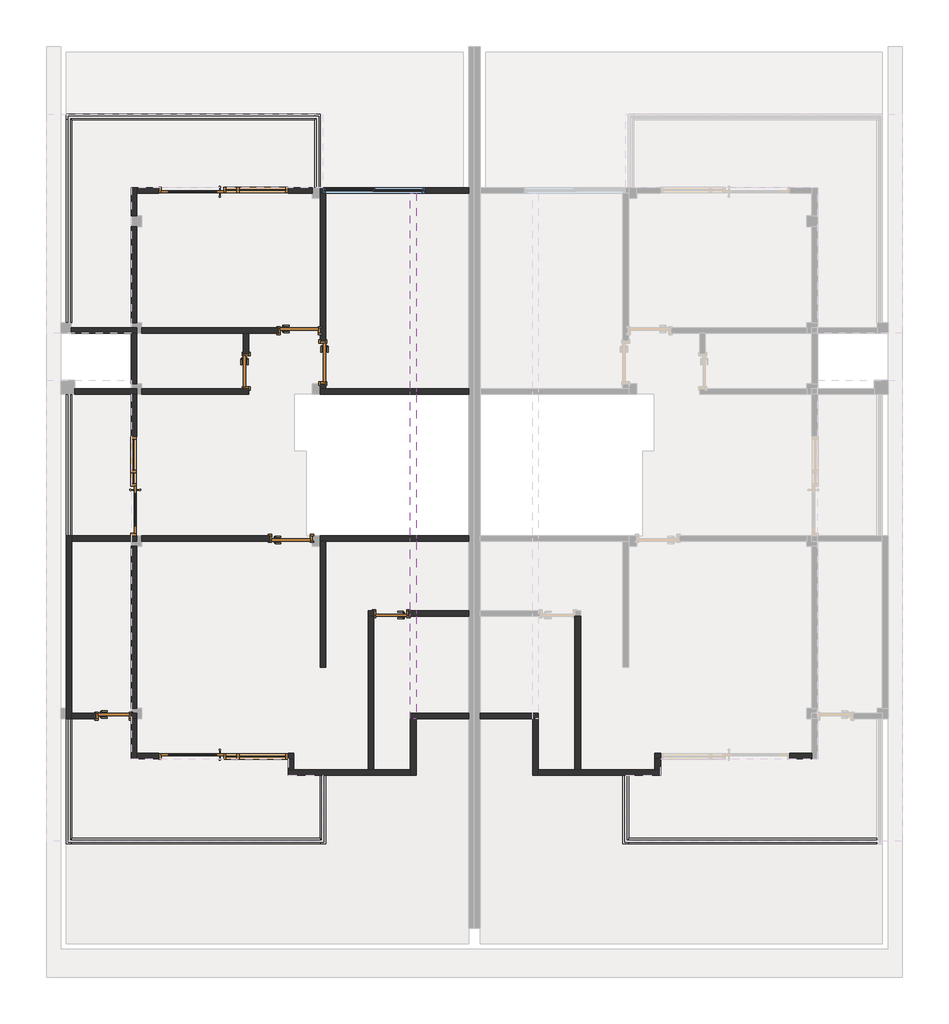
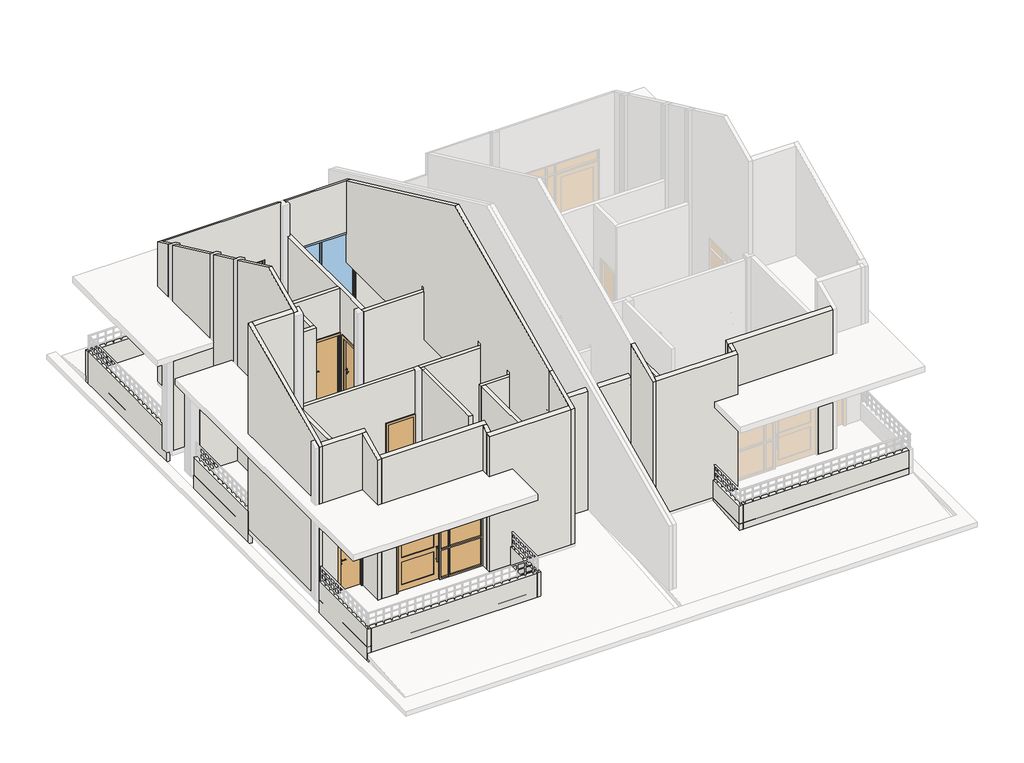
# One storey, part 1 of 6: 44 walls, 9 doors, 1 window.
"""IFC4 building model written with IfcOpenShell, lengths in millimetres."""

from ifc_helpers import new_model, si_unit, frame, origin, place, context, project, spatial, polyline, outline, extrude, faceted_brep, transform, mapped, element, save
from components import m1_178dd28f, m1_b2f3dea5, m3_20c00246, m3_ef5b271f, mlc4_2eb1c427, mlc4_21794f08, mlc5_f6d9b1df, c3_ac34c541

model = new_model("IFC4")

# Units and contexts
model_context = context("Model", 3, world=origin())
ifc_project = project(units=[si_unit("LENGTHUNIT", "METRE", prefix="MILLI")], contexts=[model_context])

# Site, building, storey
site = spatial("IfcSite", under=ifc_project)
building = spatial("IfcBuilding", under=site)
storey = spatial("IfcBuildingStorey", under=building, Name="标高 2", Elevation=3900.0)

# Doors
placement = place(None, origin())
m1_shape = m1_178dd28f(model_context)
element("IfcDoor", 1, ObjectType="单嵌板木门 1 : M1", at=placement, inside=storey, context=model_context, shape_type="MappedRepresentation", body=[
    mapped(m1_shape, transform((-2784.0293904, 5828.7732284, 3900.0), x_axis=(1.0, 0.0, 0.0), y_axis=(0.0, 1.0, 0.0), z_axis=(0.0, 0.0, 1.0))),
])
m1_2_shape = m1_b2f3dea5(model_context)
element("IfcDoor", 2, ObjectType="单嵌板木门 1 : M1", at=placement, inside=storey, context=model_context, shape_type="MappedRepresentation", body=[
    mapped(m1_2_shape, transform((-2609.0293904, 10248.7732284, 3900.0), x_axis=(1.0, 0.0, 0.0), y_axis=(0.0, 1.0, 0.0), z_axis=(0.0, 0.0, 1.0))),
])
element("IfcDoor", 3, ObjectType="单嵌板木门 1 : M1", at=placement, inside=storey, context=model_context, shape_type="MappedRepresentation", body=[
    mapped(m1_2_shape, transform((-2104.0293904, 9568.7732284, 3900.0), x_axis=(0.0, -1.0, 0.0), y_axis=(1.0, 0.0, 0.0), z_axis=(0.0, 0.0, 1.0))),
])
m3_shape = m3_20c00246(model_context)
element("IfcDoor", 4, ObjectType="单嵌板木门 1 : M3", at=placement, inside=storey, context=model_context, shape_type="MappedRepresentation", body=[
    mapped(m3_shape, transform((-654.0293904, 4228.7732284, 3900.0), x_axis=(-1.0, 0.0, 0.0), y_axis=(0.0, -1.0, 0.0), z_axis=(0.0, 0.0, 1.0))),
])
element("IfcDoor", 5, ObjectType="单嵌板木门 1 : M3", at=placement, inside=storey, context=model_context, shape_type="MappedRepresentation", body=[
    mapped(m3_shape, transform((-6559.0293904, 2048.7732284, 3900.0), x_axis=(1.0, 0.0, 0.0), y_axis=(0.0, 1.0, 0.0), z_axis=(0.0, 0.0, 1.0))),
])
m3_2_shape = m3_ef5b271f(model_context)
element("IfcDoor", 6, ObjectType="单嵌板木门 1 : M3", at=placement, inside=storey, context=model_context, shape_type="MappedRepresentation", body=[
    mapped(m3_2_shape, transform((-3739.0293904, 9383.7732284, 3900.0), x_axis=(0.0, -1.0, 0.0), y_axis=(1.0, 0.0, 0.0), z_axis=(0.0, 0.0, 1.0))),
])
mlc4_shape = mlc4_2eb1c427(model_context)
element("IfcDoor", 7, ObjectType="单嵌板连窗玻璃门 1 : MLC4", at=placement, inside=storey, context=model_context, shape_type="MappedRepresentation", body=[
    mapped(mlc4_shape, transform((-4219.0293904, 13228.7732284, 3900.0), x_axis=(1.0, 0.0, 0.0), y_axis=(0.0, 1.0, 0.0), z_axis=(0.0, 0.0, 1.0))),
])
mlc4_2_shape = mlc4_21794f08(model_context)
element("IfcDoor", 8, ObjectType="单嵌板连窗玻璃门 1 : MLC4", at=placement, inside=storey, context=model_context, shape_type="MappedRepresentation", body=[
    mapped(mlc4_2_shape, transform((-4219.0293904, 1198.7732284, 3900.0), x_axis=(1.0, 0.0, 0.0), y_axis=(0.0, 1.0, 0.0), z_axis=(0.0, 0.0, 1.0))),
])
mlc5_shape = mlc5_f6d9b1df(model_context)
element("IfcDoor", 9, ObjectType="单嵌板连窗玻璃门 1 : MLC5", at=placement, inside=storey, context=model_context, shape_type="MappedRepresentation", body=[
    mapped(mlc5_shape, transform((-6124.0293904, 6938.7732284, 3900.0), x_axis=(0.0, 1.0, 0.0), y_axis=(-1.0, 0.0, 0.0), z_axis=(0.0, 0.0, 1.0))),
])

# Walls
element("IfcWall", 10, ObjectType="墙", at=placement, inside=storey, context=model_context, shape_type="Brep", body=[
    faceted_brep([(-6064.0293904, 10308.7732284, 3900.0), (-7454.0293904, 10308.7732284, 3900.0), (-7454.0293904, 10308.7732284, 6900.0), (-6184.0293904, 10308.7732284, 6900.0), (-6064.0293904, 10308.7732284, 6900.0), (-6064.0293904, 10188.7732284, 3900.0), (-6064.0293904, 10188.7732284, 6900.0), (-6184.0293904, 10188.7732284, 6900.0), (-7454.0293904, 10188.7732284, 6900.0), (-7454.0293904, 10188.7732284, 3900.0), (-6184.0293904, 10188.7732284, 3900.0)], [[[0, 1, 2, 3, 4]], [[5, 6, 7, 8, 9, 10]], [[1, 0, 5, 10, 9]], [[2, 1, 9, 8]], [[0, 4, 6, 5]], [[4, 3, 7, 6]], [[3, 2, 8, 7]]]),
])
element("IfcWall", 11, ObjectType="墙", at=placement, inside=storey, context=model_context, shape_type="SweptSolid", body=[
    extrude(outline(polyline([(10418.7732284, 3900.0), (10418.7732284, 9927.4884723), (12458.7732284, 8976.2208496), (12458.7732284, 3900.0), (10418.7732284, 3900.0)])), frame((-6184.0293904, 0.0, 0.0), z_axis=(1.0, 0.0, 0.0), x_axis=(0.0, 1.0, 0.0)), (0.0, 0.0, 1.0), 120.0),
])
element("IfcWall", 12, ObjectType="墙", at=placement, inside=storey, context=model_context, shape_type="Brep", body=[
    faceted_brep([(-6064.0293904, 12688.7732284, 3900.0), (-6064.0293904, 13168.7732284, 3900.0), (-6064.0293904, 13288.7732284, 3900.0), (-6064.0293904, 13288.7732284, 8589.1854934), (-6064.0293904, 13168.7732284, 8645.1424123), (-6064.0293904, 12688.7732284, 8868.9700883), (-6184.0293904, 12688.7732284, 3900.0), (-6184.0293904, 12688.7732284, 8868.9700883), (-6184.0293904, 13288.7732284, 8589.1854934), (-6184.0293904, 13288.7732284, 3900.0)], [[[0, 1, 2, 3, 4, 5]], [[6, 7, 8, 9]], [[2, 1, 0, 6, 9]], [[0, 5, 7, 6]], [[3, 2, 9, 8]], [[5, 4, 3, 8, 7]]]),
])
element("IfcWall", 13, ObjectType="墙", at=placement, inside=storey, context=model_context, shape_type="Brep", body=[
    faceted_brep([(-2334.0293904, 13168.7732284, 3900.0), (-2334.0293904, 13168.7732284, 8645.1424123), (-6064.0293904, 13168.7732284, 8645.1424123), (-6064.0293904, 13168.7732284, 3900.0), (-5594.0293904, 13168.7732284, 3900.0), (-5594.0293904, 13168.7732284, 6900.0), (-2844.0293904, 13168.7732284, 6900.0), (-2844.0293904, 13168.7732284, 3900.0), (-2334.0293904, 13288.7732284, 8589.1854934), (-2334.0293904, 13288.7732284, 3900.0), (-2844.0293904, 13288.7732284, 3900.0), (-2844.0293904, 13288.7732284, 6900.0), (-5594.0293904, 13288.7732284, 6900.0), (-5594.0293904, 13288.7732284, 3900.0), (-6064.0293904, 13288.7732284, 3900.0), (-6064.0293904, 13288.7732284, 8589.1854934)], [[[0, 1, 2, 3, 4, 5, 6, 7]], [[8, 9, 10, 11, 12, 13, 14, 15]], [[9, 0, 7, 10]], [[3, 14, 13, 4]], [[1, 0, 9, 8]], [[3, 2, 15, 14]], [[6, 11, 10, 7]], [[11, 6, 5, 12]], [[12, 5, 4, 13]], [[2, 1, 8, 15]]]),
])
element("IfcWall", 14, ObjectType="墙", at=placement, inside=storey, context=model_context, shape_type="Brep", body=[
    faceted_brep([(-2164.0293904, 13168.7732284, 3900.0), (-2104.0293904, 13168.7732284, 3900.0), (-2104.0293904, 13168.7732284, 6900.0), (55.9706096, 13168.7732284, 6900.0), (55.9706096, 13168.7732284, 3900.0), (995.9706096, 13168.7732284, 3900.0), (995.9706096, 13168.7732284, 7928.9916288), (-124.0293904, 13168.7732284, 7928.9916288), (-124.0293904, 13168.7732284, 8645.1424123), (-244.0293904, 13168.7732284, 8645.1424123), (-2164.0293904, 13168.7732284, 8645.1424123), (-2164.0293904, 13168.7732284, 7500.0), (-2104.0293904, 13288.7732284, 6900.0), (-2104.0293904, 13288.7732284, 3900.0), (-2164.0293904, 13288.7732284, 3900.0), (-2164.0293904, 13288.7732284, 8589.1854934), (-124.0293904, 13288.7732284, 8589.1854934), (-124.0293904, 13288.7732284, 7873.0347098), (995.9706096, 13288.7732284, 7873.0347098), (995.9706096, 13288.7732284, 3900.0), (55.9706096, 13288.7732284, 3900.0), (55.9706096, 13288.7732284, 6900.0)], [[[0, 1, 2, 3, 4, 5, 6, 7, 8, 9, 10, 11]], [[12, 13, 14, 15, 16, 17, 18, 19, 20, 21]], [[20, 19, 5, 4]], [[14, 13, 1, 0]], [[0, 11, 10, 15, 14]], [[4, 3, 21, 20]], [[2, 1, 13, 12]], [[3, 2, 12, 21]], [[10, 9, 8, 16, 15]], [[16, 8, 7, 17]], [[7, 6, 18, 17]], [[6, 5, 19, 18]]]),
])
element("IfcWall", 15, ObjectType="墙", at=placement, inside=storey, context=model_context, shape_type="Brep", body=[
    faceted_brep([(-6064.0293904, 9008.7732284, 3900.0), (-7384.0293904, 9008.7732284, 3900.0), (-7384.0293904, 9008.7732284, 6900.0), (-6184.0293904, 9008.7732284, 6900.0), (-6064.0293904, 9008.7732284, 6900.0), (-6064.0293904, 8888.7732284, 3900.0), (-6064.0293904, 8888.7732284, 6900.0), (-6184.0293904, 8888.7732284, 6900.0), (-7384.0293904, 8888.7732284, 6900.0), (-7384.0293904, 8888.7732284, 3900.0), (-6184.0293904, 8888.7732284, 3900.0)], [[[0, 1, 2, 3, 4]], [[5, 6, 7, 8, 9, 10]], [[1, 0, 5, 10, 9]], [[2, 1, 9, 8]], [[0, 4, 6, 5]], [[4, 3, 7, 6]], [[3, 2, 8, 7]]]),
])
element("IfcWall", 16, ObjectType="墙", at=placement, inside=storey, context=model_context, shape_type="Brep", body=[
    faceted_brep([(-6064.0293904, 8888.7732284, 3900.0), (-6064.0293904, 8888.7732284, 6900.0), (-6064.0293904, 8888.7732284, 10640.9391892), (-6064.0293904, 7188.7732284, 11433.6622081), (-6064.0293904, 5768.7732284, 10771.5053335), (-6064.0293904, 5768.7732284, 3900.0), (-6064.0293904, 5888.7732284, 3900.0), (-6064.0293904, 5888.7732284, 6900.0), (-6064.0293904, 7988.7732284, 6900.0), (-6064.0293904, 7988.7732284, 3900.0), (-6184.0293904, 8888.7732284, 10640.9391892), (-6184.0293904, 8888.7732284, 3900.0), (-6184.0293904, 7988.7732284, 3900.0), (-6184.0293904, 7988.7732284, 6900.0), (-6184.0293904, 5888.7732284, 6900.0), (-6184.0293904, 5888.7732284, 3900.0), (-6184.0293904, 5768.7732284, 3900.0), (-6184.0293904, 5768.7732284, 10771.5053335), (-6184.0293904, 5888.7732284, 10827.4622525), (-6184.0293904, 7188.7732284, 11433.6622081)], [[[0, 1, 2, 3, 4, 5, 6, 7, 8, 9]], [[10, 11, 12, 13, 14, 15, 16, 17, 18, 19]], [[11, 0, 9, 12]], [[5, 16, 15, 6]], [[2, 1, 0, 11, 10]], [[5, 4, 17, 16]], [[8, 13, 12, 9]], [[13, 8, 7, 14]], [[14, 7, 6, 15]], [[17, 4, 3, 19, 18]], [[2, 10, 19, 3]]]),
])
element("IfcWall", 17, ObjectType="墙", at=placement, inside=storey, context=model_context, shape_type="Brep", body=[
    faceted_brep([(-7444.0293904, 1988.7732284, 9008.8623857), (-7444.0293904, 1988.7732284, 4500.0), (-7444.0293904, 1988.7732284, 3900.0), (-7444.0293904, 2108.7732284, 3900.0), (-7444.0293904, 5768.7732284, 3900.0), (-7444.0293904, 5888.7732284, 3900.0), (-7444.0293904, 5888.7732284, 4500.0), (-7444.0293904, 5888.7732284, 10827.4622525), (-7444.0293904, 5768.7732284, 10771.5053335), (-7444.0293904, 2108.7732284, 9064.8193047), (-7564.0293904, 1988.7732284, 3900.0), (-7564.0293904, 1988.7732284, 4500.0), (-7564.0293904, 1988.7732284, 9008.8623857), (-7564.0293904, 5888.7732284, 10827.4622525), (-7564.0293904, 5888.7732284, 4500.0), (-7564.0293904, 5888.7732284, 3900.0)], [[[0, 1, 2, 3, 4, 5, 6, 7, 8, 9]], [[10, 11, 12, 13, 14, 15]], [[5, 4, 3, 2, 10, 15]], [[0, 12, 11, 10, 2, 1]], [[5, 15, 14, 13, 7, 6]], [[0, 9, 8, 7, 13, 12]]]),
])
element("IfcWall", 18, ObjectType="墙", at=placement, inside=storey, context=model_context, shape_type="Brep", body=[
    faceted_brep([(-7444.0293904, 5768.7732284, 3900.0), (-6184.0293904, 5768.7732284, 3900.0), (-6184.0293904, 5768.7732284, 10771.5053335), (-7444.0293904, 5768.7732284, 10771.5053335), (-7444.0293904, 5888.7732284, 3900.0), (-7444.0293904, 5888.7732284, 10827.4622525), (-6184.0293904, 5888.7732284, 10827.4622525), (-6184.0293904, 5888.7732284, 6900.0), (-6184.0293904, 5888.7732284, 3900.0)], [[[0, 1, 2, 3]], [[4, 5, 6, 7, 8]], [[1, 0, 4, 8]], [[0, 3, 5, 4]], [[2, 1, 8, 7, 6]], [[3, 2, 6, 5]]]),
])
element("IfcWall", 19, ObjectType="墙", at=placement, inside=storey, context=model_context, shape_type="Brep", body=[
    faceted_brep([(-6064.0293904, 2108.7732284, 9064.8193047), (-6064.0293904, 2108.7732284, 3900.0), (-6184.0293904, 2108.7732284, 3900.0), (-6184.0293904, 2108.7732284, 5900.0), (-6934.0293904, 2108.7732284, 5900.0), (-6934.0293904, 2108.7732284, 3900.0), (-7444.0293904, 2108.7732284, 3900.0), (-7444.0293904, 2108.7732284, 9064.8193047), (-6064.0293904, 1988.7732284, 3900.0), (-6064.0293904, 1988.7732284, 9008.8623857), (-6184.0293904, 1988.7732284, 9008.8623857), (-7444.0293904, 1988.7732284, 9008.8623857), (-7444.0293904, 1988.7732284, 3900.0), (-6934.0293904, 1988.7732284, 3900.0), (-6934.0293904, 1988.7732284, 5900.0), (-6184.0293904, 1988.7732284, 5900.0), (-6184.0293904, 1988.7732284, 3900.0)], [[[0, 1, 2, 3, 4, 5, 6, 7]], [[8, 9, 10, 11, 12, 13, 14, 15, 16]], [[1, 8, 16, 2]], [[12, 6, 5, 13]], [[1, 0, 9, 8]], [[6, 12, 11, 7]], [[15, 3, 2, 16]], [[3, 15, 14, 4]], [[4, 14, 13, 5]], [[0, 7, 11, 10, 9]]]),
])
element("IfcWall", 20, ObjectType="墙", at=placement, inside=storey, context=model_context, shape_type="Brep", body=[
    faceted_brep([(-6064.0293904, 1138.7732284, 3900.0), (-6064.0293904, 1258.7732284, 3900.0), (-6064.0293904, 1988.7732284, 3900.0), (-6064.0293904, 1988.7732284, 9008.8623857), (-6064.0293904, 1258.7732284, 8668.4577952), (-6064.0293904, 1138.7732284, 8612.5008763), (-6184.0293904, 1138.7732284, 3900.0), (-6184.0293904, 1138.7732284, 8612.5008763), (-6184.0293904, 1988.7732284, 9008.8623857), (-6184.0293904, 1988.7732284, 6000.0), (-6184.0293904, 1988.7732284, 3900.0)], [[[0, 1, 2, 3, 4, 5]], [[6, 7, 8, 9, 10]], [[2, 1, 0, 6, 10]], [[3, 2, 10, 9, 8]], [[0, 5, 7, 6]], [[5, 4, 3, 8, 7]]]),
])
element("IfcWall", 21, ObjectType="墙", at=placement, inside=storey, context=model_context, shape_type="Brep", body=[
    faceted_brep([(-6064.0293904, 1258.7732284, 3900.0), (-6064.0293904, 1258.7732284, 8668.4577952), (-2724.0293904, 1258.7732284, 8668.4577952), (-2724.0293904, 1258.7732284, 3900.0), (-2844.0293904, 1258.7732284, 3900.0), (-2844.0293904, 1258.7732284, 6900.0), (-5594.0293904, 1258.7732284, 6900.0), (-5594.0293904, 1258.7732284, 3900.0), (-6064.0293904, 1138.7732284, 8612.5008763), (-6064.0293904, 1138.7732284, 3900.0), (-5594.0293904, 1138.7732284, 3900.0), (-5594.0293904, 1138.7732284, 6900.0), (-2844.0293904, 1138.7732284, 6900.0), (-2844.0293904, 1138.7732284, 3900.0), (-2724.0293904, 1138.7732284, 3900.0), (-2724.0293904, 1138.7732284, 8612.5008763), (-2844.0293904, 1138.7732284, 8612.5008763)], [[[0, 1, 2, 3, 4, 5, 6, 7]], [[8, 9, 10, 11, 12, 13, 14, 15, 16]], [[9, 0, 7, 10]], [[3, 14, 13, 4]], [[1, 0, 9, 8]], [[3, 2, 15, 14]], [[12, 5, 4, 13]], [[5, 12, 11, 6]], [[6, 11, 10, 7]], [[2, 1, 8, 16, 15]]]),
])
element("IfcWall", 22, ObjectType="墙", at=placement, inside=storey, context=model_context, shape_type="Brep", body=[
    faceted_brep([(995.9706096, 2108.7732284, 3900.0), (-244.0293904, 2108.7732284, 3900.0), (-244.0293904, 2108.7732284, 7650.0), (-124.0293904, 2108.7732284, 7650.0), (-124.0293904, 2108.7732284, 7956.9700883), (995.9706096, 2108.7732284, 7956.9700883), (995.9706096, 1988.7732284, 3900.0), (995.9706096, 1988.7732284, 7901.0131693), (-124.0293904, 1988.7732284, 7901.0131693), (-124.0293904, 1988.7732284, 7650.0), (-244.0293904, 1988.7732284, 7650.0), (-244.0293904, 1988.7732284, 3900.0), (-124.0293904, 1988.7732284, 3900.0)], [[[0, 1, 2, 3, 4, 5]], [[6, 7, 8, 9, 10, 11, 12]], [[1, 0, 6, 12, 11]], [[2, 1, 11, 10]], [[3, 2, 10, 9]], [[3, 9, 8, 4]], [[5, 4, 8, 7]], [[0, 5, 7, 6]]]),
])
element("IfcWall", 23, ObjectType="墙", at=placement, inside=storey, context=model_context, shape_type="Brep", body=[
    faceted_brep([(-244.0293904, 1988.7732284, 3900.0), (-244.0293904, 908.7732284, 3900.0), (-244.0293904, 788.7732284, 3900.0), (-244.0293904, 788.7732284, 8449.2931959), (-244.0293904, 908.7732284, 8505.2501149), (-244.0293904, 1988.7732284, 9008.8623857), (-244.0293904, 1988.7732284, 7650.0), (-124.0293904, 1988.7732284, 3900.0), (-124.0293904, 1988.7732284, 9008.8623857), (-124.0293904, 788.7732284, 8449.2931959), (-124.0293904, 788.7732284, 3900.0)], [[[0, 1, 2, 3, 4, 5, 6]], [[7, 8, 9, 10]], [[2, 1, 0, 7, 10]], [[0, 6, 5, 8, 7]], [[3, 2, 10, 9]], [[5, 4, 3, 9, 8]]]),
])
element("IfcWall", 24, ObjectType="墙", at=placement, inside=storey, context=model_context, shape_type="Brep", body=[
    faceted_brep([(-244.0293904, 908.7732284, 3900.0), (-1024.0293904, 908.7732284, 3900.0), (-1144.0293904, 908.7732284, 3900.0), (-2724.0293904, 908.7732284, 3900.0), (-2844.0293904, 908.7732284, 3900.0), (-2844.0293904, 908.7732284, 8505.2501149), (-2724.0293904, 908.7732284, 8505.2501149), (-244.0293904, 908.7732284, 8505.2501149), (-244.0293904, 788.7732284, 3900.0), (-244.0293904, 788.7732284, 8449.2931959), (-2844.0293904, 788.7732284, 8449.2931959), (-2844.0293904, 788.7732284, 3900.0)], [[[0, 1, 2, 3, 4, 5, 6, 7]], [[8, 9, 10, 11]], [[4, 3, 2, 1, 0, 8, 11]], [[0, 7, 9, 8]], [[5, 4, 11, 10]], [[7, 6, 5, 10, 9]]]),
])
element("IfcWall", 25, ObjectType="墙", at=placement, inside=storey, context=model_context, shape_type="Brep", body=[
    faceted_brep([(-2724.0293904, 908.7732284, 3900.0), (-2724.0293904, 1138.7732284, 3900.0), (-2724.0293904, 1138.7732284, 8612.5008763), (-2724.0293904, 908.7732284, 8505.2501149), (-2844.0293904, 908.7732284, 3900.0), (-2844.0293904, 908.7732284, 8505.2501149), (-2844.0293904, 1138.7732284, 8612.5008763), (-2844.0293904, 1138.7732284, 6900.0), (-2844.0293904, 1138.7732284, 3900.0)], [[[0, 1, 2, 3]], [[4, 5, 6, 7, 8]], [[1, 0, 4, 8]], [[0, 3, 5, 4]], [[2, 1, 8, 7, 6]], [[3, 2, 6, 5]]]),
])
element("IfcWall", 26, ObjectType="墙", at=placement, inside=storey, context=model_context, shape_type="Brep", body=[
    faceted_brep([(-1029.0293904, 4288.7732284, 3900.0), (-1144.0293904, 4288.7732284, 3900.0), (-1144.0293904, 4288.7732284, 7500.0), (995.9706096, 4288.7732284, 7500.0), (995.9706096, 4288.7732284, 3900.0), (-279.0293904, 4288.7732284, 3900.0), (-279.0293904, 4288.7732284, 5900.0), (-1029.0293904, 4288.7732284, 5900.0), (-1144.0293904, 4168.7732284, 3900.0), (-1029.0293904, 4168.7732284, 3900.0), (-1029.0293904, 4168.7732284, 5900.0), (-279.0293904, 4168.7732284, 5900.0), (-279.0293904, 4168.7732284, 3900.0), (995.9706096, 4168.7732284, 3900.0), (995.9706096, 4168.7732284, 7500.0), (-1024.0293904, 4168.7732284, 7500.0), (-1144.0293904, 4168.7732284, 7500.0)], [[[0, 1, 2, 3, 4, 5, 6, 7]], [[8, 9, 10, 11, 12, 13, 14, 15, 16]], [[8, 1, 0, 9]], [[5, 4, 13, 12]], [[1, 8, 16, 2]], [[7, 10, 9, 0]], [[10, 7, 6, 11]], [[11, 6, 5, 12]], [[3, 2, 16, 15, 14]], [[13, 4, 3, 14]]]),
])
element("IfcWall", 27, ObjectType="墙", at=placement, inside=storey, context=model_context, shape_type="SweptSolid", body=[
    extrude(outline(polyline([(-1144.0293904, 908.7732284), (-1144.0293904, 4168.7732284), (-1024.0293904, 4168.7732284), (-1024.0293904, 908.7732284), (-1144.0293904, 908.7732284)])), frame((0.0, 0.0, 3900.0), z_axis=(0.0, 0.0, 1.0), x_axis=(1.0, 0.0, 0.0)), (0.0, 0.0, 1.0), 3600.0),
])
element("IfcWall", 28, ObjectType="墙", at=placement, inside=storey, context=model_context, shape_type="SweptSolid", body=[
    extrude(outline(polyline([(-6064.0293904, 5658.7732284), (-6064.0293904, 2218.7732284), (-6184.0293904, 2218.7732284), (-6184.0293904, 5658.7732284), (-6064.0293904, 5658.7732284)])), frame((0.0, 0.0, 3900.0), z_axis=(0.0, 0.0, 1.0), x_axis=(1.0, 0.0, 0.0)), (0.0, 0.0, 1.0), 3750.0),
])
element("IfcWall", 29, ObjectType="墙", at=placement, inside=storey, context=model_context, shape_type="SweptSolid", body=[
    extrude(outline(polyline([(3900.0, -5954.0293904), (3900.0, -3234.0293904), (6000.0, -3234.0293904), (6000.0, -2334.0293904), (7500.0, -2334.0293904), (7500.0, -5954.0293904), (3900.0, -5954.0293904)])), frame((0.0, 5768.7732284, 0.0), z_axis=(0.0, 1.0, 0.0), x_axis=(0.0, 0.0, 1.0)), (0.0, 0.0, 1.0), 120.0),
])
element("IfcWall", 30, ObjectType="墙", at=placement, inside=storey, context=model_context, shape_type="Brep", body=[
    faceted_brep([(-2164.0293904, 5768.7732284, 3900.0), (-2044.0293904, 5768.7732284, 3900.0), (995.9706096, 5768.7732284, 3900.0), (995.9706096, 5768.7732284, 7500.0), (-2044.0293904, 5768.7732284, 7500.0), (-2164.0293904, 5768.7732284, 7500.0), (995.9706096, 5888.7732284, 3900.0), (-2164.0293904, 5888.7732284, 3900.0), (-2164.0293904, 5888.7732284, 7500.0), (995.9706096, 5888.7732284, 7500.0)], [[[0, 1, 2, 3, 4, 5]], [[6, 7, 8, 9]], [[2, 1, 0, 7, 6]], [[7, 0, 5, 8]], [[5, 4, 3, 9, 8]], [[2, 6, 9, 3]]]),
])
element("IfcWall", 31, ObjectType="墙", at=placement, inside=storey, context=model_context, shape_type="Brep", body=[
    faceted_brep([(995.9706096, 9008.7732284, 3900.0), (-2044.0293904, 9008.7732284, 3900.0), (-2164.0293904, 9008.7732284, 3900.0), (-2164.0293904, 9008.7732284, 7500.0), (-2044.0293904, 9008.7732284, 7500.0), (995.9706096, 9008.7732284, 7500.0), (-2164.0293904, 8888.7732284, 3900.0), (995.9706096, 8888.7732284, 3900.0), (995.9706096, 8888.7732284, 7500.0), (-2164.0293904, 8888.7732284, 7500.0)], [[[0, 1, 2, 3, 4, 5]], [[6, 7, 8, 9]], [[2, 1, 0, 7, 6]], [[2, 6, 9, 3]], [[5, 4, 3, 9, 8]], [[7, 0, 5, 8]]]),
])
element("IfcWall", 32, ObjectType="墙", at=placement, inside=storey, context=model_context, shape_type="Brep", body=[
    faceted_brep([(-3679.0293904, 9008.7732284, 3900.0), (-5954.0293904, 9008.7732284, 3900.0), (-5954.0293904, 9008.7732284, 7500.0), (-3799.0293904, 9008.7732284, 7500.0), (-3679.0293904, 9008.7732284, 7500.0), (-3679.0293904, 9008.7732284, 5900.0), (-5954.0293904, 8888.7732284, 3900.0), (-3679.0293904, 8888.7732284, 3900.0), (-3679.0293904, 8888.7732284, 7500.0), (-5954.0293904, 8888.7732284, 7500.0)], [[[0, 1, 2, 3, 4, 5]], [[6, 7, 8, 9]], [[1, 0, 7, 6]], [[1, 6, 9, 2]], [[7, 0, 5, 4, 8]], [[4, 3, 2, 9, 8]]]),
])
element("IfcWall", 33, ObjectType="墙", at=placement, inside=storey, context=model_context, shape_type="SweptSolid", body=[
    extrude(outline(polyline([(-2164.0293904, 3088.7732284), (-2164.0293904, 5768.7732284), (-2044.0293904, 5768.7732284), (-2044.0293904, 3088.7732284), (-2164.0293904, 3088.7732284)])), frame((0.0, 0.0, 3900.0), z_axis=(0.0, 0.0, 1.0), x_axis=(1.0, 0.0, 0.0)), (0.0, 0.0, 1.0), 3600.0),
])
element("IfcWall", 34, ObjectType="墙", at=placement, inside=storey, context=model_context, shape_type="Brep", body=[
    faceted_brep([(-2044.0293904, 9008.7732284, 3900.0), (-2044.0293904, 9118.7732284, 3900.0), (-2044.0293904, 9118.7732284, 6000.0), (-2044.0293904, 10018.7732284, 6000.0), (-2044.0293904, 10018.7732284, 3900.0), (-2044.0293904, 13168.7732284, 3900.0), (-2044.0293904, 13168.7732284, 7500.0), (-2044.0293904, 9008.7732284, 7500.0), (-2164.0293904, 13168.7732284, 3900.0), (-2164.0293904, 10308.7732284, 3900.0), (-2164.0293904, 10308.7732284, 6000.0), (-2164.0293904, 10188.7732284, 6000.0), (-2164.0293904, 10188.7732284, 3900.0), (-2164.0293904, 10018.7732284, 3900.0), (-2164.0293904, 10018.7732284, 6000.0), (-2164.0293904, 9118.7732284, 6000.0), (-2164.0293904, 9118.7732284, 3900.0), (-2164.0293904, 9008.7732284, 3900.0), (-2164.0293904, 9008.7732284, 7500.0), (-2164.0293904, 10188.7732284, 7500.0), (-2164.0293904, 10308.7732284, 7500.0), (-2164.0293904, 13168.7732284, 7500.0), (-2159.0293904, 10188.7732284, 3900.0), (-2159.0293904, 10308.7732284, 3900.0), (-2159.0293904, 10188.7732284, 6000.0), (-2159.0293904, 10308.7732284, 6000.0)], [[[0, 1, 2, 3, 4, 5, 6, 7]], [[8, 9, 10, 11, 12, 13, 14, 15, 16, 17, 18, 19, 20, 21]], [[8, 5, 4, 13, 12, 22, 23, 9]], [[0, 17, 16, 1]], [[17, 0, 7, 18]], [[5, 8, 21, 6]], [[24, 22, 12, 11]], [[23, 25, 10, 9]], [[22, 24, 25, 23]], [[25, 24, 11, 10]], [[15, 2, 1, 16]], [[2, 15, 14, 3]], [[3, 14, 13, 4]], [[7, 6, 21, 20, 19, 18]]]),
])
element("IfcWall", 35, ObjectType="墙", at=placement, inside=storey, context=model_context, shape_type="Brep", body=[
    faceted_brep([(-3059.0293904, 10308.7732284, 3900.0), (-5954.0293904, 10308.7732284, 3900.0), (-5954.0293904, 10308.7732284, 7500.0), (-2164.0293904, 10308.7732284, 7500.0), (-2164.0293904, 10308.7732284, 6000.0), (-3059.0293904, 10308.7732284, 6000.0), (-5954.0293904, 10188.7732284, 3900.0), (-3799.0293904, 10188.7732284, 3900.0), (-3679.0293904, 10188.7732284, 3900.0), (-3059.0293904, 10188.7732284, 3900.0), (-3059.0293904, 10188.7732284, 6000.0), (-2164.0293904, 10188.7732284, 6000.0), (-2164.0293904, 10188.7732284, 7500.0), (-3679.0293904, 10188.7732284, 7500.0), (-3799.0293904, 10188.7732284, 7500.0), (-5954.0293904, 10188.7732284, 7500.0)], [[[0, 1, 2, 3, 4, 5]], [[6, 7, 8, 9, 10, 11, 12, 13, 14, 15]], [[6, 1, 0, 9, 8, 7]], [[1, 6, 15, 2]], [[11, 4, 3, 12]], [[10, 5, 4, 11]], [[5, 10, 9, 0]], [[3, 2, 15, 14, 13, 12]]]),
])
element("IfcWall", 36, ObjectType="墙", at=placement, inside=storey, context=model_context, shape_type="SweptSolid", body=[
    extrude(outline(polyline([(10188.7732284, 3900.0), (9758.7732284, 3900.0), (9758.7732284, 5900.0), (9008.7732284, 5900.0), (9008.7732284, 7500.0), (10188.7732284, 7500.0), (10188.7732284, 3900.0)])), frame((-3799.0293904, 0.0, 0.0), z_axis=(1.0, 0.0, 0.0), x_axis=(0.0, 1.0, 0.0)), (0.0, 0.0, 1.0), 120.0),
])
element("IfcWall", 37, ObjectType="墙", at=placement, inside=storey, context=model_context, shape_type="Brep", body=[
    faceted_brep([(8295.9706096, 1138.7732284, 3900.0), (8295.9706096, 1138.7732284, 8612.5008763), (5075.9706096, 1138.7732284, 8612.5008763), (4955.9706096, 1138.7732284, 8612.5008763), (4955.9706096, 1138.7732284, 3900.0), (5075.9706096, 1138.7732284, 3900.0), (5075.9706096, 1138.7732284, 6900.0), (7825.9706096, 1138.7732284, 6900.0), (7825.9706096, 1138.7732284, 3900.0), (8295.9706096, 1258.7732284, 8668.4577952), (8295.9706096, 1258.7732284, 3900.0), (7825.9706096, 1258.7732284, 3900.0), (7825.9706096, 1258.7732284, 6900.0), (5075.9706096, 1258.7732284, 6900.0), (5075.9706096, 1258.7732284, 3900.0), (4955.9706096, 1258.7732284, 3900.0), (4955.9706096, 1258.7732284, 8668.4577952)], [[[0, 1, 2, 3, 4, 5, 6, 7, 8]], [[9, 10, 11, 12, 13, 14, 15, 16]], [[10, 0, 8, 11]], [[4, 15, 14, 5]], [[1, 0, 10, 9]], [[4, 3, 16, 15]], [[13, 6, 5, 14]], [[6, 13, 12, 7]], [[7, 12, 11, 8]], [[3, 2, 1, 9, 16]]]),
])
element("IfcWall", 38, ObjectType="墙", at=placement, inside=storey, context=model_context, shape_type="Brep", body=[
    faceted_brep([(1235.9706096, 1988.7732284, 3900.0), (2355.9706096, 1988.7732284, 3900.0), (2475.9706096, 1988.7732284, 3900.0), (2475.9706096, 1988.7732284, 7650.0), (2355.9706096, 1988.7732284, 7650.0), (2355.9706096, 1988.7732284, 7901.0131693), (1235.9706096, 1988.7732284, 7901.0131693), (1235.9706096, 2108.7732284, 3900.0), (1235.9706096, 2108.7732284, 7956.9700883), (2355.9706096, 2108.7732284, 7956.9700883), (2355.9706096, 2108.7732284, 7650.0), (2475.9706096, 2108.7732284, 7650.0), (2475.9706096, 2108.7732284, 3900.0)], [[[0, 1, 2, 3, 4, 5, 6]], [[7, 8, 9, 10, 11, 12]], [[2, 1, 0, 7, 12]], [[3, 2, 12, 11]], [[0, 6, 8, 7]], [[4, 3, 11, 10]], [[4, 10, 9, 5]], [[6, 5, 9, 8]]]),
])
element("IfcWall", 39, ObjectType="墙", at=placement, inside=storey, context=model_context, shape_type="Brep", body=[
    faceted_brep([(2355.9706096, 1988.7732284, 3900.0), (2355.9706096, 788.7732284, 3900.0), (2355.9706096, 788.7732284, 8449.2931959), (2355.9706096, 1988.7732284, 9008.8623857), (2475.9706096, 1988.7732284, 3900.0), (2475.9706096, 1988.7732284, 7650.0), (2475.9706096, 1988.7732284, 9008.8623857), (2475.9706096, 908.7732284, 8505.2501149), (2475.9706096, 788.7732284, 8449.2931959), (2475.9706096, 788.7732284, 3900.0), (2475.9706096, 908.7732284, 3900.0)], [[[0, 1, 2, 3]], [[4, 5, 6, 7, 8, 9, 10]], [[1, 0, 4, 10, 9]], [[0, 3, 6, 5, 4]], [[2, 1, 9, 8]], [[3, 2, 8, 7, 6]]]),
])
element("IfcWall", 40, ObjectType="墙", at=placement, inside=storey, context=model_context, shape_type="Brep", body=[
    faceted_brep([(2475.9706096, 788.7732284, 3900.0), (5075.9706096, 788.7732284, 3900.0), (5075.9706096, 788.7732284, 8449.2931959), (2475.9706096, 788.7732284, 8449.2931959), (2475.9706096, 908.7732284, 3900.0), (2475.9706096, 908.7732284, 8505.2501149), (4955.9706096, 908.7732284, 8505.2501149), (5075.9706096, 908.7732284, 8505.2501149), (5075.9706096, 908.7732284, 3900.0), (4955.9706096, 908.7732284, 3900.0), (3375.9706096, 908.7732284, 3900.0), (3255.9706096, 908.7732284, 3900.0)], [[[0, 1, 2, 3]], [[4, 5, 6, 7, 8, 9, 10, 11]], [[1, 0, 4, 11, 10, 9, 8]], [[0, 3, 5, 4]], [[2, 1, 8, 7]], [[3, 2, 7, 6, 5]]]),
])
element("IfcWall", 41, ObjectType="墙", at=placement, inside=storey, context=model_context, shape_type="Brep", body=[
    faceted_brep([(5075.9706096, 908.7732284, 3900.0), (5075.9706096, 1138.7732284, 3900.0), (5075.9706096, 1138.7732284, 6900.0), (5075.9706096, 1138.7732284, 8612.5008763), (5075.9706096, 908.7732284, 8505.2501149), (4955.9706096, 908.7732284, 3900.0), (4955.9706096, 908.7732284, 8505.2501149), (4955.9706096, 1138.7732284, 8612.5008763), (4955.9706096, 1138.7732284, 3900.0)], [[[0, 1, 2, 3, 4]], [[5, 6, 7, 8]], [[1, 0, 5, 8]], [[0, 4, 6, 5]], [[3, 2, 1, 8, 7]], [[4, 3, 7, 6]]]),
])
element("IfcWall", 42, ObjectType="墙", at=placement, inside=storey, context=model_context, shape_type="Brep", body=[
    faceted_brep([(3255.9706096, 4168.7732284, 3900.0), (3255.9706096, 908.7732284, 3900.0), (3255.9706096, 908.7732284, 7500.0), (3255.9706096, 4168.7732284, 7500.0), (3375.9706096, 908.7732284, 3900.0), (3375.9706096, 4168.7732284, 3900.0), (3375.9706096, 4168.7732284, 7500.0), (3375.9706096, 908.7732284, 7500.0), (3260.9706096, 4168.7732284, 3900.0)], [[[0, 1, 2, 3]], [[4, 5, 6, 7]], [[1, 0, 8, 5, 4]], [[5, 8, 0, 3, 6]], [[1, 4, 7, 2]], [[3, 2, 7, 6]]]),
])
element("IfcWall", 43, ObjectType="墙", at=placement, inside=storey, context=model_context, shape_type="Brep", body=[
    faceted_brep([(-2159.0293904, 13288.7732284, 4500.0), (-2159.0293904, 13288.7732284, 3400.0), (-2159.0293904, 14848.7732284, 3400.0), (-2159.0293904, 14848.7732284, 4500.0), (-2279.0293904, 13288.7732284, 3400.0), (-2279.0293904, 13288.7732284, 4500.0), (-2279.0293904, 14728.7732284, 4500.0), (-2279.0293904, 14848.7732284, 4500.0), (-2279.0293904, 14848.7732284, 3400.0), (-2279.0293904, 14728.7732284, 3400.0)], [[[0, 1, 2, 3]], [[4, 5, 6, 7, 8, 9]], [[2, 1, 4, 9, 8]], [[0, 3, 7, 6, 5]], [[0, 5, 4, 1]], [[3, 2, 8, 7]]]),
])
element("IfcWall", 44, ObjectType="墙", at=placement, inside=storey, context=model_context, shape_type="Brep", body=[
    faceted_brep([(-2279.0293904, 14848.7732284, 3400.0), (-7564.0293904, 14848.7732284, 3400.0), (-7564.0293904, 14848.7732284, 4500.0), (-2279.0293904, 14848.7732284, 4500.0), (-2279.0293904, 14728.7732284, 3400.0), (-2279.0293904, 14728.7732284, 4500.0), (-7444.0293904, 14728.7732284, 4500.0), (-7564.0293904, 14728.7732284, 4500.0), (-7564.0293904, 14728.7732284, 3400.0), (-7444.0293904, 14728.7732284, 3400.0)], [[[0, 1, 2, 3]], [[4, 5, 6, 7, 8, 9]], [[1, 0, 4, 9, 8]], [[3, 2, 7, 6, 5]], [[0, 3, 5, 4]], [[2, 1, 8, 7]]]),
])
element("IfcWall", 45, ObjectType="墙", at=placement, inside=storey, context=model_context, shape_type="SweptSolid", body=[
    extrude(outline(polyline([(-7444.0293904, 14728.7732284), (-7444.0293904, 10418.7732284), (-7564.0293904, 10418.7732284), (-7564.0293904, 14728.7732284), (-7444.0293904, 14728.7732284)])), frame((0.0, 0.0, 3400.0), z_axis=(0.0, 0.0, 1.0), x_axis=(1.0, 0.0, 0.0)), (0.0, 0.0, 1.0), 1100.0),
])
element("IfcWall", 46, ObjectType="墙", at=placement, inside=storey, context=model_context, shape_type="Brep", body=[
    faceted_brep([(-7444.0293904, 5888.7732284, 3400.0), (-7444.0293904, 8888.7732284, 3400.0), (-7444.0293904, 8888.7732284, 4500.0), (-7444.0293904, 5888.7732284, 4500.0), (-7444.0293904, 5888.7732284, 3900.0), (-7564.0293904, 5888.7732284, 3400.0), (-7564.0293904, 5888.7732284, 3900.0), (-7564.0293904, 5888.7732284, 4500.0), (-7564.0293904, 8888.7732284, 4500.0), (-7564.0293904, 8888.7732284, 3400.0)], [[[0, 1, 2, 3, 4]], [[5, 6, 7, 8, 9]], [[1, 0, 5, 9]], [[2, 1, 9, 8]], [[3, 2, 8, 7]], [[0, 4, 3, 7, 6, 5]]]),
])
element("IfcWall", 47, ObjectType="墙", at=placement, inside=storey, context=model_context, shape_type="Brep", body=[
    faceted_brep([(-2164.0293904, 788.7732284, 3400.0), (-2164.0293904, -551.2267716, 3400.0), (-2164.0293904, -671.2267716, 3400.0), (-2164.0293904, -671.2267716, 4500.0), (-2164.0293904, -551.2267716, 4500.0), (-2164.0293904, 788.7732284, 4500.0), (-2044.0293904, 788.7732284, 3400.0), (-2044.0293904, 788.7732284, 4500.0), (-2044.0293904, -671.2267716, 4500.0), (-2044.0293904, -671.2267716, 3400.0)], [[[0, 1, 2, 3, 4, 5]], [[6, 7, 8, 9]], [[2, 1, 0, 6, 9]], [[5, 4, 3, 8, 7]], [[0, 5, 7, 6]], [[3, 2, 9, 8]]]),
])
element("IfcWall", 48, ObjectType="墙", at=placement, inside=storey, context=model_context, shape_type="SweptSolid", body=[
    extrude(outline(polyline([(-7444.0293904, -551.2267716), (-2164.0293904, -551.2267716), (-2164.0293904, -671.2267716), (-7444.0293904, -671.2267716), (-7444.0293904, -551.2267716)])), frame((0.0, 0.0, 3400.0), z_axis=(0.0, 0.0, 1.0), x_axis=(1.0, 0.0, 0.0)), (0.0, 0.0, 1.0), 1100.0),
])
element("IfcWall", 49, ObjectType="墙", at=placement, inside=storey, context=model_context, shape_type="Brep", body=[
    faceted_brep([(-7444.0293904, -671.2267716, 3400.0), (-7444.0293904, -551.2267716, 3400.0), (-7444.0293904, 1988.7732284, 3400.0), (-7444.0293904, 1988.7732284, 3900.0), (-7444.0293904, 1988.7732284, 4500.0), (-7444.0293904, -551.2267716, 4500.0), (-7444.0293904, -671.2267716, 4500.0), (-7564.0293904, -671.2267716, 3400.0), (-7564.0293904, -671.2267716, 4500.0), (-7564.0293904, 1988.7732284, 4500.0), (-7564.0293904, 1988.7732284, 3900.0), (-7564.0293904, 1988.7732284, 3400.0)], [[[0, 1, 2, 3, 4, 5, 6]], [[7, 8, 9, 10, 11]], [[2, 1, 0, 7, 11]], [[6, 5, 4, 9, 8]], [[4, 3, 2, 11, 10, 9]], [[0, 6, 8, 7]]]),
])
element("IfcWall", 50, ObjectType="墙", at=placement, inside=storey, context=model_context, shape_type="Brep", body=[
    faceted_brep([(4275.9706096, 788.7732284, 3400.0), (4275.9706096, -671.2267716, 3400.0), (4275.9706096, -671.2267716, 4500.0), (4275.9706096, 788.7732284, 4500.0), (4395.9706096, 788.7732284, 3400.0), (4395.9706096, 788.7732284, 4500.0), (4395.9706096, -551.2267716, 4500.0), (4395.9706096, -671.2267716, 4500.0), (4395.9706096, -671.2267716, 3400.0), (4395.9706096, -551.2267716, 3400.0)], [[[0, 1, 2, 3]], [[4, 5, 6, 7, 8, 9]], [[1, 0, 4, 9, 8]], [[3, 2, 7, 6, 5]], [[2, 1, 8, 7]], [[0, 3, 5, 4]]]),
])
element("IfcWall", 51, ObjectType="墙", at=placement, inside=storey, context=model_context, shape_type="SweptSolid", body=[
    extrude(outline(polyline([(9675.9706096, -671.2267716), (4395.9706096, -671.2267716), (4395.9706096, -551.2267716), (9675.9706096, -551.2267716), (9675.9706096, -671.2267716)])), frame((0.0, 0.0, 3400.0), z_axis=(0.0, 0.0, 1.0), x_axis=(1.0, 0.0, 0.0)), (0.0, 0.0, 1.0), 1100.0),
])
element("IfcWall", 52, ObjectType="墙", at=placement, inside=storey, context=model_context, shape_type="Brep", body=[
    faceted_brep([(-6064.0293904, 9118.7732284, 3900.0), (-6064.0293904, 10188.7732284, 3900.0), (-6064.0293904, 10188.7732284, 6900.0), (-6064.0293904, 10188.7732284, 10034.7392336), (-6064.0293904, 9118.7732284, 10533.6884279), (-6184.0293904, 9118.7732284, 3900.0), (-6184.0293904, 9118.7732284, 10533.6884279), (-6184.0293904, 10188.7732284, 10034.7392336), (-6184.0293904, 10188.7732284, 3900.0)], [[[0, 1, 2, 3, 4]], [[5, 6, 7, 8]], [[1, 0, 5, 8]], [[0, 4, 6, 5]], [[3, 2, 1, 8, 7]], [[4, 3, 7, 6]]]),
])
element("IfcWall", 53, ObjectType="墙", at=placement, inside=storey, context=model_context, shape_type="Brep", body=[
    faceted_brep([(-244.0293904, 1988.7732284, 5900.0), (-244.0293904, 1988.7732284, 9008.8623857), (-244.0293904, 7188.7732284, 11433.6622081), (-244.0293904, 13168.7732284, 8645.1424123), (-244.0293904, 13168.7732284, 5900.0), (-244.0293904, 9008.7732284, 5900.0), (-244.0293904, 9008.7732284, 7650.0), (-244.0293904, 8888.7732284, 7650.0), (-244.0293904, 8888.7732284, 5900.0), (-244.0293904, 5888.7732284, 5900.0), (-244.0293904, 5888.7732284, 7650.0), (-244.0293904, 5768.7732284, 7650.0), (-244.0293904, 5768.7732284, 5900.0), (-244.0293904, 4288.7732284, 5900.0), (-244.0293904, 4288.7732284, 7650.0), (-244.0293904, 4168.7732284, 7650.0), (-244.0293904, 4168.7732284, 5900.0), (-124.0293904, 1988.7732284, 9008.8623857), (-124.0293904, 1988.7732284, 5900.0), (-124.0293904, 4168.7732284, 5900.0), (-124.0293904, 4168.7732284, 7650.0), (-124.0293904, 4288.7732284, 7650.0), (-124.0293904, 4288.7732284, 5900.0), (-124.0293904, 5768.7732284, 5900.0), (-124.0293904, 5768.7732284, 7650.0), (-124.0293904, 5888.7732284, 7650.0), (-124.0293904, 5888.7732284, 5900.0), (-124.0293904, 8888.7732284, 5900.0), (-124.0293904, 8888.7732284, 7650.0), (-124.0293904, 9008.7732284, 7650.0), (-124.0293904, 9008.7732284, 5900.0), (-124.0293904, 13168.7732284, 5900.0), (-124.0293904, 13168.7732284, 7928.9916288), (-124.0293904, 13168.7732284, 8645.1424123), (-124.0293904, 7188.7732284, 11433.6622081)], [[[0, 1, 2, 3, 4, 5, 6, 7, 8, 9, 10, 11, 12, 13, 14, 15, 16]], [[17, 18, 19, 20, 21, 22, 23, 24, 25, 26, 27, 28, 29, 30, 31, 32, 33, 34]], [[18, 0, 16, 19]], [[4, 31, 30, 5]], [[22, 13, 12, 23]], [[26, 9, 8, 27]], [[1, 0, 18, 17]], [[4, 3, 33, 32, 31]], [[21, 14, 13, 22]], [[15, 20, 19, 16]], [[14, 21, 20, 15]], [[11, 24, 23, 12]], [[25, 10, 9, 26]], [[24, 11, 10, 25]], [[29, 6, 5, 30]], [[7, 28, 27, 8]], [[6, 29, 28, 7]], [[33, 3, 2, 34]], [[1, 17, 34, 2]]]),
])

# Window
c3_shape = c3_ac34c541(model_context)
element("IfcWindow", 54, ObjectType="推拉窗6 : C3", at=placement, inside=storey, context=model_context, shape_type="MappedRepresentation", body=[
    mapped(c3_shape, transform((-1033.5543904, 13295.6466659, 3900.0), x_axis=(1.0, 0.0, 0.0), y_axis=(0.0, 1.0, 0.0), z_axis=(0.0, 0.0, 1.0))),
])

save(model, "model.ifc")
